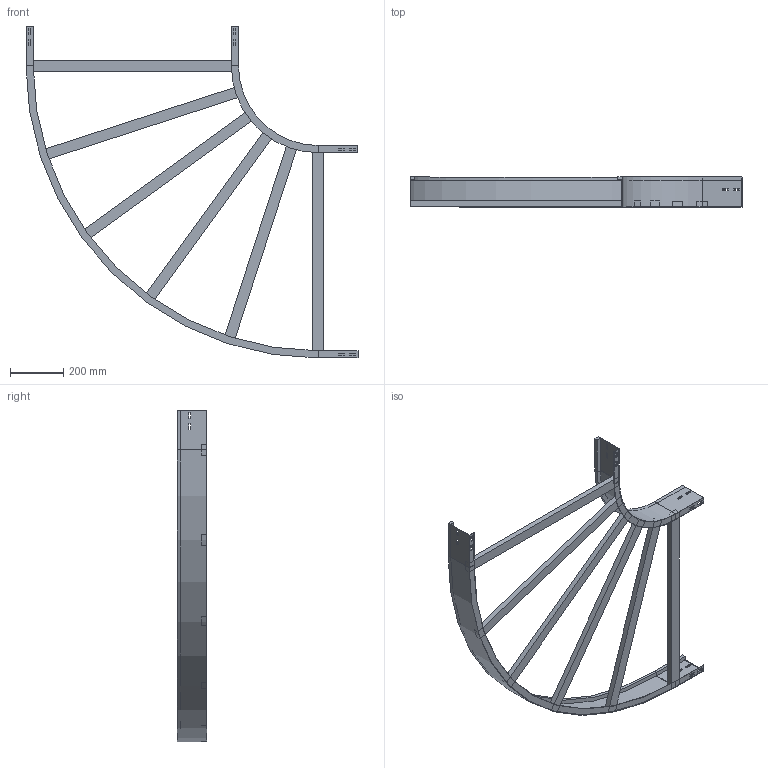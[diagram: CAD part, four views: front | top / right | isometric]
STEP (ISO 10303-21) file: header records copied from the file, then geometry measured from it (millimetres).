
FILE_DESCRIPTION (( 'STEP AP214' ), '1' );
FILE_NAME ('A2_10B3J800.step', '2025-02-21T15:24:55', ( '' ), ( '' ), 'SwSTEP 2.0', 'SolidWorks 2023', '' );
FILE_SCHEMA (( 'AUTOMOTIVE_DESIGN' ));
Length unit declared in the file: millimetre
Products named in the file (4): A2_10B3J800; A2_LONGH.INTERNO 90°_H112.5_R300; A2_LONGH.ESTERNO 90°_H112.5_R300+800; TRAVERSINO_800
Assembly tree (8 placements, depth 2):
  A2_10B3J800
    A2_LONGH.INTERNO 90°_H112.5_R300
    A2_LONGH.ESTERNO 90°_H112.5_R300+800
    TRAVERSINO_800  x6
Bounding box: 1250 x 112.5 x 1250 mm (x, y, z)
Volume: 5170818.6 mm3; surface area: 1456936.7 mm2
Topology: 8 solids, 8 shells, 152 faces, 376 edges, 240 vertices
Faces by surface type: plane 144, cylinder 8
Entity records: 3845 total; most frequent: CARTESIAN_POINT 649, ORIENTED_EDGE 632, DIRECTION 598, EDGE_CURVE 316, LINE 300, VECTOR 300, VERTEX_POINT 200, EDGE_LOOP 154
